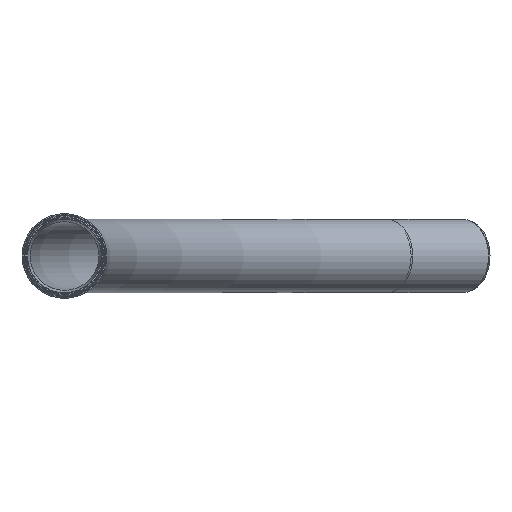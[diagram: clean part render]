
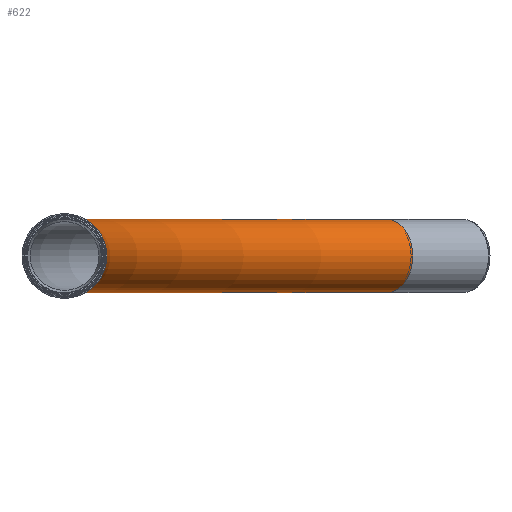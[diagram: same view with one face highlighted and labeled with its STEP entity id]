
A CAD part, left-side view. The second image highlights one B-rep face of the part: STEP entity #622.
In plain terms, the highlighted toroidal (fillet/blend) face has major radius 3000 mm and minor radius 100 mm.
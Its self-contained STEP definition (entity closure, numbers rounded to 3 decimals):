
#27=TOROIDAL_SURFACE('',#693,3000.,100.);
#97=FACE_OUTER_BOUND('',#139,.T.);
#139=EDGE_LOOP('',(#430,#431,#432,#433));
#189=CIRCLE('',#694,100.);
#190=CIRCLE('',#695,2900.);
#191=CIRCLE('',#696,100.);
#266=VERTEX_POINT('',#1080);
#267=VERTEX_POINT('',#1082);
#330=EDGE_CURVE('',#266,#266,#189,.T.);
#331=EDGE_CURVE('',#266,#267,#190,.T.);
#332=EDGE_CURVE('',#267,#267,#191,.T.);
#430=ORIENTED_EDGE('',*,*,#330,.T.);
#431=ORIENTED_EDGE('',*,*,#331,.T.);
#432=ORIENTED_EDGE('',*,*,#332,.F.);
#433=ORIENTED_EDGE('',*,*,#331,.F.);
#622=ADVANCED_FACE('',(#97),#27,.T.);
#693=AXIS2_PLACEMENT_3D('',#1079,#825,#826);
#694=AXIS2_PLACEMENT_3D('',#1081,#827,#828);
#695=AXIS2_PLACEMENT_3D('',#1083,#829,#830);
#696=AXIS2_PLACEMENT_3D('',#1084,#831,#832);
#825=DIRECTION('center_axis',(0.,0.,1.));
#826=DIRECTION('ref_axis',(1.,0.,0.));
#827=DIRECTION('center_axis',(1.,0.,0.));
#828=DIRECTION('ref_axis',(0.,0.,-1.));
#829=DIRECTION('center_axis',(0.,0.,-1.));
#830=DIRECTION('ref_axis',(1.,0.,0.));
#831=DIRECTION('center_axis',(0.707,-0.707,0.));
#832=DIRECTION('ref_axis',(0.707,0.707,0.));
#1079=CARTESIAN_POINT('Origin',(407.,-3000.,0.));
#1080=CARTESIAN_POINT('',(407.,-100.,0.));
#1081=CARTESIAN_POINT('Origin',(407.,0.,0.));
#1082=CARTESIAN_POINT('',(2457.61,-949.39,0.));
#1083=CARTESIAN_POINT('Origin',(407.,-3000.,0.));
#1084=CARTESIAN_POINT('Origin',(2528.32,-878.68,0.));
